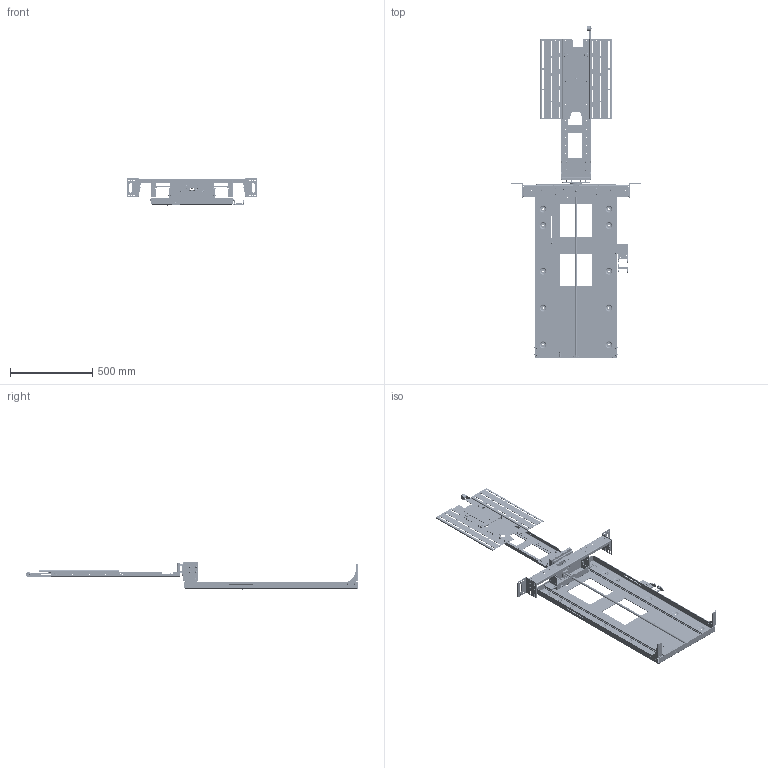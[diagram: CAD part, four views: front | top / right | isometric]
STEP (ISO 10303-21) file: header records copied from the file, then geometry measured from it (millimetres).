
FILE_DESCRIPTION (( 'STEP AP203' ), '1' );
FILE_NAME ('LSM-PF-7 OUT.STEP', '2024-07-17T14:51:41', ( '' ), ( '' ), 'SwSTEP 2.0', 'SolidWorks 2023', '' );
FILE_SCHEMA (( 'CONFIG_CONTROL_DESIGN' ));
Length unit declared in the file: millimetre
Products named in the file (73): ISO 10642 - M4 x 12 - 12C_ISO 10642 - M4 x 12 - 12C; LSM Igus Bracket_V2; ISO 4017 - M6 x 16-N_ISO 4017 - M6 x 16-N; LSM V4-007 BLOCK BRACKET MIRROR; ISO 7380 - M6 x 35 - 35N_ISO 7380 - M6 x 35 - 35N; LSM V4-245 TOP MOTOR BOSS; ISO - 4032 - M5 - D - N_ISO - 4032 - M5 - D - N; ISO 10642 - M6 x 16 - 16C_ISO 10642 - M6 x 16 - 16C; M4X20mm HEX SPACER; Washer ISO 7089 - 4_Washer ISO 7089 - 4; LSM21-403-BP SWIVEL COVER_FOLDED; PEM FH-M4-12 X--N_PEM FH-M4-12 X--N; LSM V4-057 BLANK SWITCH CARRIER; KH-445-BP PUSH FLAP EXTENSION_H780; LSM V4-003 FOOT RIGHT; 0033-014 60mm TRACK END M_Z14.4.1PZ; ISO 7380 - M6 x 16 - 16N_ISO 7380 - M6 x 16 - 16N; ISO 7380 - M5 x 12 - 12N_ISO 7380 - M5 x 12 - 12N; KH-002 MOUNT LOCK PLATE_Cam; ISO 10642 - M6 x 12 --- 12N_ISO 10642 - M6 x 12 --- 12N; Hexagon Nut ISO - 4033 - M6 - D - N_Hexagon Nut ISO - 4033 - M6 - D - N; ISO 7380 - M4 x 8 - 8CBZP_ISO 7380 - M4 x 8 - 8CBZP; LSM V4-401 BACK PLATE PUNCH_H1060; ISO - 4034 - M6 - N_ISO - 4034 - M6 - N; Hexagon Flange Nut ISO - 4161 - M6 - N_Hexagon Flange Nut ISO - 4161 - M6 - N; ISO - 4032 - M6 - D - NBZP_ISO - 4032 - M6 - D - NBZP; KH-003 CAM LEVER; LSM21-409-BP MOUNT DISC PLATE; LSM21-410-BP BEAM FRONT; ISO 7380 - M6 x 20 - 20N_ISO 7380 - M6 x 20 - 20N; ISO 7380 - M6 x 10 --- 10N_ISO 7380 - M6 x 10 --- 10N; LSM21-448-MS SWITCH HOUSING ; Washer ISO 7089 - 5_Washer ISO 7089 - 5; LSL-028 PUSH BAR_DEFAULT; LSM V4-252 LEAD SCREW TOP BUSH; Washer ISO 7089 - 6_Washer ISO 7089 - 6; Washer ISO 7089 - 6BZP_Washer ISO 7089 - 6BZP; ISO 7380 - M4 x 10 - 10N_ISO 7380 - M4 x 10 - 10N; M6 Hex Post_20; KH-001 MOUNT PLATE_V400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
Assembly tree (202 placements, depth 2):
  LSM-PF-7 OUT
    LSM V4-401 BACK PLATE PUNCH_H1060
    LSM V4-202 LINEAR GUIDE_H1060  x2
    LSM Igus Bracket_V2
    0033-014 60mm TRACK END M_Z14.4.1PZ
    LSM V4-211 LEAD SCREW_H1060
    LSM21-415-BP BEAM_Default (LATEST VERSION)
    LSM21-410-BP BEAM FRONT
    LSM V4-006 BLOCK BRACKET
    M6 Hex Post_20
    LSM V4-002 FOOT LEFT
    LSM V4-003 FOOT RIGHT
    LSM V4-252 LEAD SCREW TOP BUSH
    LSM V4-251 LEAD SCREW BOTTOM BUSH
    LSL-028 PUSH BAR_DEFAULT
    ALM675 Roller Pin
    ALM675 Roller
    LSM V4-057 BLANK SWITCH CARRIER  x2
    KH-445-BP PUSH FLAP EXTENSION_H780
    LSM V4-245 TOP MOTOR BOSS
    SWITCH HOUSING LANDING BOARD
    LSM21-409-BP MOUNT DISC PLATE
    LSM21-448-MS SWITCH HOUSING 
    LSM21-004-BP UPRIGHT FOOT
    LSM21-201-MS COVER BOSS_DEFAULT  x2
    LSM21-403-BP SWIVEL COVER_FOLDED
    LSM21-404-BP LIFT MOUNT_780 
    LSM V4-220 H-19 KH MOUNT DISC
    LSM21-005-BP LOWER PLATE_FOLDED
    KH-001 MOUNT PLATE_V400
    KH-204 CAM BOSS
    KH-205 BOSS SPACER_15MM  x4
    KH-002 MOUNT LOCK PLATE_Cam
    KH-206 SCREEN MOUNT BOSS  x4
    KH-003 CAM LEVER
    0033-013 60mm TRACK LINK_Z14.4.028.0
    M4X20mm HEX SPACER  x2
    LSM V4-007 BLOCK BRACKET MIRROR
    ISO 7380 - M6 x 12 --- 12N_ISO 7380 - M6 x 12 --- 12N  x12
    Hexagon Flange Nut ISO - 4161 - M6 - N_Hexagon Flange Nut ISO - 4161 - M6 - N  x4
    ISO 10642 - M5 x 8 --- 8N_ISO 10642 - M5 x 8 --- 8N  x2
    ISO 4762 M5 x 8 --- 8N_ISO 4762 M5 x 8 --- 8N  x2
    ISO 7380 - M5 x 10 --- 10N_ISO 7380 - M5 x 10 --- 10N  x2
    ISO 7380 - M6 x 10 --- 10N_ISO 7380 - M6 x 10 --- 10N  x18
    ISO 4017 - M6 x 16-N_ISO 4017 - M6 x 16-N
    ISO 10642 - M6 x 12 --- 12N_ISO 10642 - M6 x 12 --- 12N
    Hexagon Nut ISO - 4033 - M6 - D - N_Hexagon Nut ISO - 4033 - M6 - D - N
    ISO 7380 - M5 x 12 --- 12N_ISO 7380 - M5 x 12 --- 12N  x8
    ISO 4762 M5 x 50 - 22N_ISO 4762 M5 x 50 - 22N  x2
    ISO 10642 - M4 x 12 - 12C_ISO 10642 - M4 x 12 - 12C  x3
    ISO 7380 - M5 x 12 - 12N_ISO 7380 - M5 x 12 - 12N  x3
    Washer ISO 7089 - 5_Washer ISO 7089 - 5  x2
    ISO - 4032 - M5 - D - N_ISO - 4032 - M5 - D - N  x2
    ISO 7380 - M6 x 16 - 16N_ISO 7380 - M6 x 16 - 16N  x4
    Washer ISO 7089 - 6_Washer ISO 7089 - 6  x12
    ISO - 4034 - M6 - N_ISO - 4034 - M6 - N  x4
    ISO - 4161 - M6 - N_ISO - 4161 - M6 - N  x4
    ISO 7380 - M6 x 20 - 20N_ISO 7380 - M6 x 20 - 20N  x4
    ISO - 4032 - M4 - D - N_ISO - 4032 - M4 - D - N
    Washer ISO 7089 - 4_Washer ISO 7089 - 4  x2
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Bounding box: 795 x 2016 x 166 mm (x, y, z)
Volume: 5159262.3 mm3; surface area: 2949605.5 mm2
Topology: 202 solids, 202 shells, 4844 faces, 11309 edges, 7078 vertices
Faces by surface type: plane 2665, cylinder 1251, cone 597, torus 189, bspline 74, sphere 68
Full cylindrical faces by diameter (mm): 3 x10, 3.3 x5, 3.5 x2, 4 x16, 4.2 x8, 4.3 x4, 4.5 x4, 4.65 x9, 5 x75, 5.2 x2, 5.3 x4, 5.415 x2, 5.5 x6, 5.55 x46, 6 x126, 6.2 x86, 6.3 x8, 6.4 x37, 6.5 x10, 6.6 x10, 6.8 x2, 7 x2, 7.1 x3, 7.2 x1, 7.53 x3, 7.6 x5, 8.5 x4, 9 x2, 9.1 x12, 9.43 x2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
Entity records: 93966 total; most frequent: CARTESIAN_POINT 18822, DIRECTION 13635, ORIENTED_EDGE 11916, EDGE_CURVE 5958, AXIS2_PLACEMENT_3D 5176, EDGE_LOOP 4127, VERTEX_POINT 4115, VECTOR 3283
